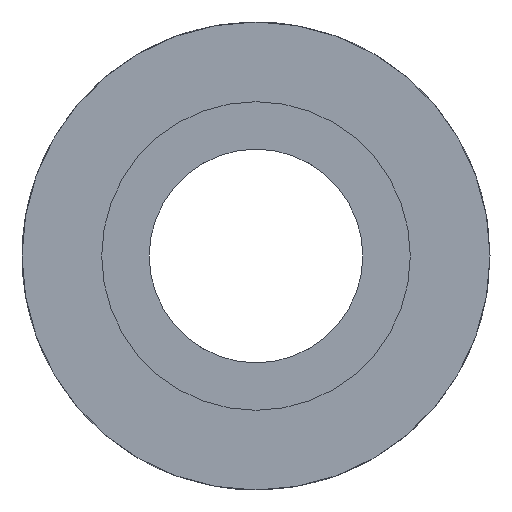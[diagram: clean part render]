
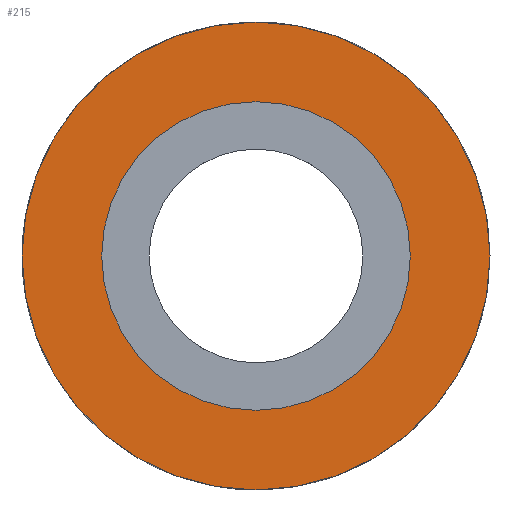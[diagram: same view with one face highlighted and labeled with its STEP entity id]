
A CAD part, left-side view. The second image highlights one B-rep face of the part: STEP entity #215.
In plain terms, the highlighted planar face has unit normal (-1, 0, 0).
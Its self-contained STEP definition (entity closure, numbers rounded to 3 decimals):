
#15=FACE_BOUND($,#52,.T.);
#37=FACE_OUTER_BOUND($,#51,.T.);
#51=EDGE_LOOP($,(#181));
#52=EDGE_LOOP($,(#182));
#66=CIRCLE($,#239,0.787);
#68=CIRCLE($,#242,1.194);
#111=VERTEX_POINT($,#422);
#113=VERTEX_POINT($,#427);
#138=EDGE_CURVE($,#111,#111,#66,.T.);
#140=EDGE_CURVE($,#113,#113,#68,.T.);
#181=ORIENTED_EDGE($,*,*,#140,.F.);
#182=ORIENTED_EDGE($,*,*,#138,.T.);
#203=PLANE($,#241);
#215=ADVANCED_FACE($,(#37,#15),#203,.T.);
#239=AXIS2_PLACEMENT_3D($,#423,#295,#296);
#241=AXIS2_PLACEMENT_3D($,#426,#299,#300);
#242=AXIS2_PLACEMENT_3D($,#428,#301,#302);
#295=DIRECTION('center_axis',(1.,0.,0.));
#296=DIRECTION('ref_axis',(0.,1.,0.));
#299=DIRECTION('center_axis',(-1.,0.,0.));
#300=DIRECTION('ref_axis',(0.,0.,1.));
#301=DIRECTION('center_axis',(1.,0.,0.));
#302=DIRECTION('ref_axis',(0.,1.,0.));
#422=CARTESIAN_POINT('',(3.175,0.787,0.));
#423=CARTESIAN_POINT('Origin',(3.175,0.,0.));
#426=CARTESIAN_POINT('Origin',(3.175,0.991,0.));
#427=CARTESIAN_POINT('',(3.175,1.194,0.));
#428=CARTESIAN_POINT('Origin',(3.175,0.,0.));
